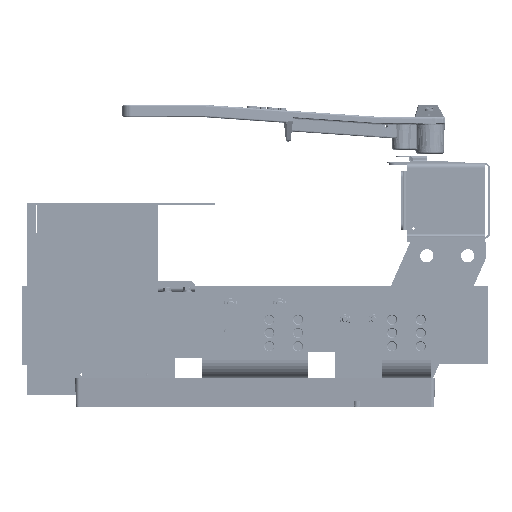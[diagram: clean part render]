
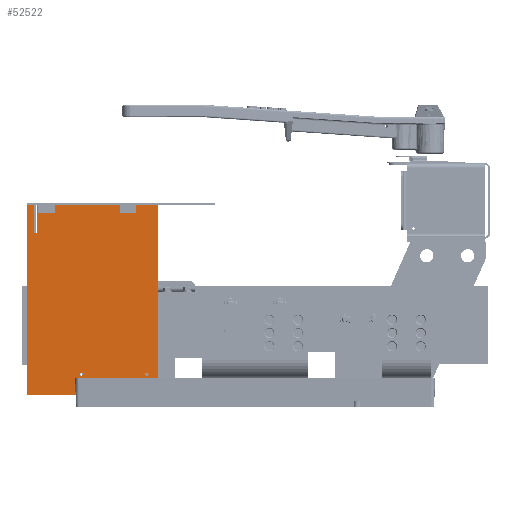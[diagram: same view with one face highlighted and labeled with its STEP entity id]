
A CAD part, left-side view. The second image highlights one B-rep face of the part: STEP entity #52522.
In plain terms, the highlighted planar face has unit normal (-1, 0, 0) as drawn and (0, 0, -1) by its records, which use the part's own axes.
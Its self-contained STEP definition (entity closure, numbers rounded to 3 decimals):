
#3063=FACE_BOUND('',#12041,.T.);
#3064=FACE_BOUND('',#12042,.T.);
#3065=FACE_BOUND('',#12043,.T.);
#3066=FACE_BOUND('',#12044,.T.);
#4988=CIRCLE('',#58442,0.097);
#4990=CIRCLE('',#58445,0.097);
#4992=CIRCLE('',#58448,0.097);
#4994=CIRCLE('',#58451,0.097);
#8525=FACE_OUTER_BOUND('',#12040,.T.);
#12040=EDGE_LOOP('',(#43512,#43513,#43514,#43515,#43516,#43517,#43518,#43519,
#43520,#43521,#43522,#43523));
#12041=EDGE_LOOP('',(#43524));
#12042=EDGE_LOOP('',(#43525));
#12043=EDGE_LOOP('',(#43526));
#12044=EDGE_LOOP('',(#43527));
#16076=LINE('',#87497,#20210);
#16080=LINE('',#87505,#20214);
#16083=LINE('',#87511,#20217);
#16086=LINE('',#87517,#20220);
#16089=LINE('',#87523,#20223);
#16092=LINE('',#87529,#20226);
#16095=LINE('',#87535,#20229);
#16098=LINE('',#87541,#20232);
#16101=LINE('',#87547,#20235);
#16104=LINE('',#87553,#20238);
#16107=LINE('',#87559,#20241);
#16110=LINE('',#87564,#20244);
#20210=VECTOR('',#70599,0.394);
#20214=VECTOR('',#70605,0.394);
#20217=VECTOR('',#70610,0.394);
#20220=VECTOR('',#70615,0.394);
#20223=VECTOR('',#70620,0.394);
#20226=VECTOR('',#70625,0.394);
#20229=VECTOR('',#70630,0.394);
#20232=VECTOR('',#70635,0.394);
#20235=VECTOR('',#70640,0.394);
#20238=VECTOR('',#70645,0.394);
#20241=VECTOR('',#70650,0.394);
#20244=VECTOR('',#70655,0.394);
#24717=VERTEX_POINT('',#87471);
#24719=VERTEX_POINT('',#87477);
#24721=VERTEX_POINT('',#87483);
#24723=VERTEX_POINT('',#87489);
#24725=VERTEX_POINT('',#87495);
#24726=VERTEX_POINT('',#87496);
#24729=VERTEX_POINT('',#87504);
#24731=VERTEX_POINT('',#87510);
#24733=VERTEX_POINT('',#87516);
#24735=VERTEX_POINT('',#87522);
#24737=VERTEX_POINT('',#87528);
#24739=VERTEX_POINT('',#87534);
#24741=VERTEX_POINT('',#87540);
#24743=VERTEX_POINT('',#87546);
#24745=VERTEX_POINT('',#87552);
#24747=VERTEX_POINT('',#87558);
#31218=EDGE_CURVE('',#24717,#24717,#4988,.T.);
#31221=EDGE_CURVE('',#24719,#24719,#4990,.T.);
#31224=EDGE_CURVE('',#24721,#24721,#4992,.T.);
#31227=EDGE_CURVE('',#24723,#24723,#4994,.T.);
#31230=EDGE_CURVE('',#24725,#24726,#16076,.T.);
#31234=EDGE_CURVE('',#24729,#24725,#16080,.T.);
#31237=EDGE_CURVE('',#24731,#24729,#16083,.T.);
#31240=EDGE_CURVE('',#24733,#24731,#16086,.T.);
#31243=EDGE_CURVE('',#24735,#24733,#16089,.T.);
#31246=EDGE_CURVE('',#24737,#24735,#16092,.T.);
#31249=EDGE_CURVE('',#24739,#24737,#16095,.T.);
#31252=EDGE_CURVE('',#24741,#24739,#16098,.T.);
#31255=EDGE_CURVE('',#24743,#24741,#16101,.T.);
#31258=EDGE_CURVE('',#24745,#24743,#16104,.T.);
#31261=EDGE_CURVE('',#24747,#24745,#16107,.T.);
#31264=EDGE_CURVE('',#24726,#24747,#16110,.T.);
#43512=ORIENTED_EDGE('',*,*,#31264,.F.);
#43513=ORIENTED_EDGE('',*,*,#31230,.F.);
#43514=ORIENTED_EDGE('',*,*,#31234,.F.);
#43515=ORIENTED_EDGE('',*,*,#31237,.F.);
#43516=ORIENTED_EDGE('',*,*,#31240,.F.);
#43517=ORIENTED_EDGE('',*,*,#31243,.F.);
#43518=ORIENTED_EDGE('',*,*,#31246,.F.);
#43519=ORIENTED_EDGE('',*,*,#31249,.F.);
#43520=ORIENTED_EDGE('',*,*,#31252,.F.);
#43521=ORIENTED_EDGE('',*,*,#31255,.F.);
#43522=ORIENTED_EDGE('',*,*,#31258,.F.);
#43523=ORIENTED_EDGE('',*,*,#31261,.F.);
#43524=ORIENTED_EDGE('',*,*,#31218,.T.);
#43525=ORIENTED_EDGE('',*,*,#31221,.T.);
#43526=ORIENTED_EDGE('',*,*,#31224,.T.);
#43527=ORIENTED_EDGE('',*,*,#31227,.T.);
#50181=PLANE('',#58466);
#52522=ADVANCED_FACE('',(#8525,#3063,#3064,#3065,#3066),#50181,.F.);
#58442=AXIS2_PLACEMENT_3D('',#87472,#70571,#70572);
#58445=AXIS2_PLACEMENT_3D('',#87478,#70578,#70579);
#58448=AXIS2_PLACEMENT_3D('',#87484,#70585,#70586);
#58451=AXIS2_PLACEMENT_3D('',#87490,#70592,#70593);
#58466=AXIS2_PLACEMENT_3D('',#87567,#70659,#70660);
#70571=DIRECTION('center_axis',(0.,0.,1.));
#70572=DIRECTION('ref_axis',(-1.,0.,0.));
#70578=DIRECTION('center_axis',(0.,0.,1.));
#70579=DIRECTION('ref_axis',(-1.,0.,0.));
#70585=DIRECTION('center_axis',(0.,0.,1.));
#70586=DIRECTION('ref_axis',(-1.,0.,0.));
#70592=DIRECTION('center_axis',(0.,0.,1.));
#70593=DIRECTION('ref_axis',(-1.,0.,0.));
#70599=DIRECTION('',(1.,0.,0.));
#70605=DIRECTION('',(0.,1.,0.));
#70610=DIRECTION('',(1.,0.,0.));
#70615=DIRECTION('',(0.,-1.,0.));
#70620=DIRECTION('',(-1.,0.,0.));
#70625=DIRECTION('',(0.,-1.,0.));
#70630=DIRECTION('',(1.,0.,0.));
#70635=DIRECTION('',(0.,-1.,0.));
#70640=DIRECTION('',(-1.,0.,0.));
#70645=DIRECTION('',(0.,1.,0.));
#70650=DIRECTION('',(1.,0.,0.));
#70655=DIRECTION('',(0.,-1.,0.));
#70659=DIRECTION('center_axis',(0.,0.,1.));
#70660=DIRECTION('ref_axis',(1.,0.,0.));
#87471=CARTESIAN_POINT('',(0.347,2.,0.));
#87472=CARTESIAN_POINT('Origin',(0.25,2.,0.));
#87477=CARTESIAN_POINT('',(0.347,7.,0.));
#87478=CARTESIAN_POINT('Origin',(0.25,7.,0.));
#87483=CARTESIAN_POINT('',(10.472,0.688,0.));
#87484=CARTESIAN_POINT('Origin',(10.375,0.688,0.));
#87489=CARTESIAN_POINT('',(10.472,4.688,0.));
#87490=CARTESIAN_POINT('Origin',(10.375,4.688,0.));
#87495=CARTESIAN_POINT('',(10.625,5.094,0.));
#87496=CARTESIAN_POINT('',(11.156,5.094,0.));
#87497=CARTESIAN_POINT('',(10.625,5.094,0.));
#87504=CARTESIAN_POINT('',(10.625,0.,0.));
#87505=CARTESIAN_POINT('',(10.625,0.,0.));
#87510=CARTESIAN_POINT('',(0.,0.,0.));
#87511=CARTESIAN_POINT('',(0.,0.,0.));
#87516=CARTESIAN_POINT('',(0.,7.422,0.));
#87517=CARTESIAN_POINT('',(0.,7.422,0.));
#87522=CARTESIAN_POINT('',(1.75,7.422,0.));
#87523=CARTESIAN_POINT('',(1.75,7.422,0.));
#87528=CARTESIAN_POINT('',(1.75,7.578,0.));
#87529=CARTESIAN_POINT('',(1.75,7.578,0.));
#87534=CARTESIAN_POINT('',(0.,7.578,0.));
#87535=CARTESIAN_POINT('',(0.,7.578,0.));
#87540=CARTESIAN_POINT('',(0.,8.,0.));
#87541=CARTESIAN_POINT('',(0.,8.,0.));
#87546=CARTESIAN_POINT('',(11.625,8.,0.));
#87547=CARTESIAN_POINT('',(11.625,8.,0.));
#87552=CARTESIAN_POINT('',(11.625,4.719,0.));
#87553=CARTESIAN_POINT('',(11.625,4.719,0.));
#87558=CARTESIAN_POINT('',(11.156,4.719,0.));
#87559=CARTESIAN_POINT('',(11.156,4.719,0.));
#87564=CARTESIAN_POINT('',(11.156,5.094,0.));
#87567=CARTESIAN_POINT('Origin',(5.401,4.41,0.));
